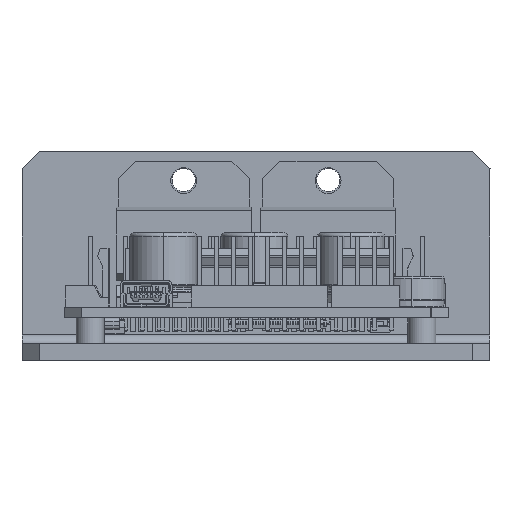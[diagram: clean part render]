
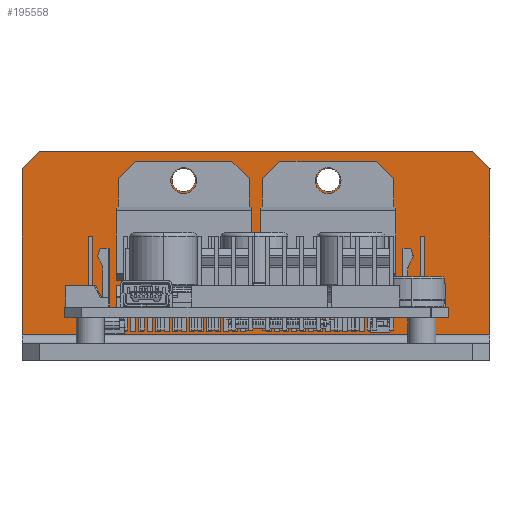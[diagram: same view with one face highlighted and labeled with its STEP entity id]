
A CAD part, left-side view. The second image highlights one B-rep face of the part: STEP entity #195558.
In plain terms, the highlighted planar face has unit normal (-1, 0, 0) as drawn and (0, 0, 1) by its records, which use the part's own axes.
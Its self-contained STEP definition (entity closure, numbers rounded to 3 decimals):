
#2008 = EDGE_CURVE ( 'NONE', #4758, #195263, #186607, .T. ) ;
#4758 = VERTEX_POINT ( 'NONE', #198624 ) ;
#4832 = DIRECTION ( 'NONE',  ( 0., 0., 1. ) ) ;
#6882 = DIRECTION ( 'NONE',  ( 0., 0., 1. ) ) ;
#12177 = CARTESIAN_POINT ( 'NONE',  ( 32.385, 28.575, 0. ) ) ;
#18003 = EDGE_CURVE ( 'NONE', #262494, #252592, #265276, .T. ) ;
#18778 = DIRECTION ( 'NONE',  ( 0., 0., -1. ) ) ;
#19043 = VECTOR ( 'NONE', #72759, 1000. ) ;
#22130 = DIRECTION ( 'NONE',  ( 0., -1., 0. ) ) ;
#24165 = ORIENTED_EDGE ( 'NONE', *, *, #18003, .F. ) ;
#25281 = VECTOR ( 'NONE', #22130, 1000. ) ;
#38261 = AXIS2_PLACEMENT_3D ( 'NONE', #226423, #100465, #247492 ) ;
#45047 = ORIENTED_EDGE ( 'NONE', *, *, #191996, .F. ) ;
#59914 = CARTESIAN_POINT ( 'NONE',  ( -32.385, 28.575, 0. ) ) ;
#60201 = VECTOR ( 'NONE', #178025, 1000. ) ;
#60356 = EDGE_CURVE ( 'NONE', #150615, #4758, #227829, .T. ) ;
#62751 = CARTESIAN_POINT ( 'NONE',  ( -34.925, 1.27, 0. ) ) ;
#71545 = FACE_BOUND ( 'NONE', #80745, .T. ) ;
#72759 = DIRECTION ( 'NONE',  ( 0.707, 0.707, 0. ) ) ;
#73716 = CARTESIAN_POINT ( 'NONE',  ( -34.925, 26.035, 0. ) ) ;
#79378 = CARTESIAN_POINT ( 'NONE',  ( -34.925, 1.27, 0. ) ) ;
#79927 = DIRECTION ( 'NONE',  ( 0., 0., 1. ) ) ;
#80745 = EDGE_LOOP ( 'NONE', ( #126329, #228329 ) ) ;
#84749 = CARTESIAN_POINT ( 'NONE',  ( 12.522, 24.336, 0. ) ) ;
#90665 = VERTEX_POINT ( 'NONE', #59914 ) ;
#91859 = CIRCLE ( 'NONE', #256432, 1.727 ) ;
#98920 = ORIENTED_EDGE ( 'NONE', *, *, #115339, .F. ) ;
#100465 = DIRECTION ( 'NONE',  ( 0., 0., 1. ) ) ;
#100548 = DIRECTION ( 'NONE',  ( 0., 1., 0. ) ) ;
#103503 = AXIS2_PLACEMENT_3D ( 'NONE', #144820, #18778, #166077 ) ;
#105248 = EDGE_CURVE ( 'NONE', #241465, #134500, #265210, .T. ) ;
#115339 = EDGE_CURVE ( 'NONE', #90665, #150615, #116124, .T. ) ;
#116124 = LINE ( 'NONE', #135655, #60201 ) ;
#121766 = ORIENTED_EDGE ( 'NONE', *, *, #2008, .F. ) ;
#126114 = ORIENTED_EDGE ( 'NONE', *, *, #105248, .F. ) ;
#126329 = ORIENTED_EDGE ( 'NONE', *, *, #153613, .F. ) ;
#126334 = EDGE_CURVE ( 'NONE', #208381, #207708, #91859, .T. ) ;
#130882 = CARTESIAN_POINT ( 'NONE',  ( 10.795, 24.336, 0. ) ) ;
#132864 = CARTESIAN_POINT ( 'NONE',  ( -10.795, 24.336, 0. ) ) ;
#134500 = VERTEX_POINT ( 'NONE', #73716 ) ;
#135655 = CARTESIAN_POINT ( 'NONE',  ( 34.925, 28.575, 0. ) ) ;
#137504 = DIRECTION ( 'NONE',  ( 1., 0., 0. ) ) ;
#144820 = CARTESIAN_POINT ( 'NONE',  ( 34.925, 0., 0. ) ) ;
#148249 = CARTESIAN_POINT ( 'NONE',  ( 34.925, 1.27, 0. ) ) ;
#150615 = VERTEX_POINT ( 'NONE', #12177 ) ;
#152080 = DIRECTION ( 'NONE',  ( -1., 0., 0. ) ) ;
#153345 = VECTOR ( 'NONE', #100548, 1000. ) ;
#153613 = EDGE_CURVE ( 'NONE', #207708, #208381, #224548, .T. ) ;
#154116 = DIRECTION ( 'NONE',  ( -1., 0., 0. ) ) ;
#166077 = DIRECTION ( 'NONE',  ( -1., 0., 0. ) ) ;
#167040 = AXIS2_PLACEMENT_3D ( 'NONE', #130882, #4832, #152080 ) ;
#171457 = EDGE_CURVE ( 'NONE', #252592, #262494, #264326, .T. ) ;
#171928 = VECTOR ( 'NONE', #193159, 1000. ) ;
#175407 = CARTESIAN_POINT ( 'NONE',  ( 9.068, 24.336, 0. ) ) ;
#178025 = DIRECTION ( 'NONE',  ( 1., 0., 0. ) ) ;
#180043 = EDGE_LOOP ( 'NONE', ( #24165, #187632 ) ) ;
#183352 = FACE_OUTER_BOUND ( 'NONE', #232844, .T. ) ;
#184971 = AXIS2_PLACEMENT_3D ( 'NONE', #132864, #6882, #154116 ) ;
#185284 = PLANE ( 'NONE',  #103503 ) ;
#186156 = ORIENTED_EDGE ( 'NONE', *, *, #60356, .F. ) ;
#186607 = LINE ( 'NONE', #148249, #25281 ) ;
#187632 = ORIENTED_EDGE ( 'NONE', *, *, #171457, .F. ) ;
#190219 = VECTOR ( 'NONE', #137504, 1000. ) ;
#191996 = EDGE_CURVE ( 'NONE', #134500, #90665, #242823, .T. ) ;
#192855 = ORIENTED_EDGE ( 'NONE', *, *, #195342, .T. ) ;
#193159 = DIRECTION ( 'NONE',  ( 0.707, -0.707, 0. ) ) ;
#195263 = VERTEX_POINT ( 'NONE', #220451 ) ;
#195342 = EDGE_CURVE ( 'NONE', #241465, #195263, #246151, .T. ) ;
#195558 = ADVANCED_FACE ( 'NONE', ( #71545, #239282, #183352 ), #185284, .F. ) ;
#198624 = CARTESIAN_POINT ( 'NONE',  ( 34.925, 26.035, 0. ) ) ;
#200151 = CARTESIAN_POINT ( 'NONE',  ( 34.925, 1.27, 0. ) ) ;
#205880 = CARTESIAN_POINT ( 'NONE',  ( 10.795, 24.336, 0. ) ) ;
#207708 = VERTEX_POINT ( 'NONE', #175407 ) ;
#208381 = VERTEX_POINT ( 'NONE', #84749 ) ;
#220451 = CARTESIAN_POINT ( 'NONE',  ( 34.925, 1.27, 0. ) ) ;
#224548 = CIRCLE ( 'NONE', #167040, 1.727 ) ;
#226423 = CARTESIAN_POINT ( 'NONE',  ( -10.795, 24.336, 0. ) ) ;
#227027 = DIRECTION ( 'NONE',  ( -1., 0., 0. ) ) ;
#227829 = LINE ( 'NONE', #255717, #171928 ) ;
#228329 = ORIENTED_EDGE ( 'NONE', *, *, #126334, .F. ) ;
#232844 = EDGE_LOOP ( 'NONE', ( #98920, #45047, #126114, #192855, #121766, #186156 ) ) ;
#239282 = FACE_BOUND ( 'NONE', #180043, .T. ) ;
#240978 = CARTESIAN_POINT ( 'NONE',  ( -34.925, 26.035, 0. ) ) ;
#241465 = VERTEX_POINT ( 'NONE', #62751 ) ;
#242076 = CARTESIAN_POINT ( 'NONE',  ( -12.522, 24.336, 0. ) ) ;
#242823 = LINE ( 'NONE', #240978, #19043 ) ;
#246151 = LINE ( 'NONE', #200151, #190219 ) ;
#247492 = DIRECTION ( 'NONE',  ( -1., 0., 0. ) ) ;
#252592 = VERTEX_POINT ( 'NONE', #266854 ) ;
#255717 = CARTESIAN_POINT ( 'NONE',  ( 32.385, 28.575, 0. ) ) ;
#256432 = AXIS2_PLACEMENT_3D ( 'NONE', #205880, #79927, #227027 ) ;
#262494 = VERTEX_POINT ( 'NONE', #242076 ) ;
#264326 = CIRCLE ( 'NONE', #38261, 1.727 ) ;
#265210 = LINE ( 'NONE', #79378, #153345 ) ;
#265276 = CIRCLE ( 'NONE', #184971, 1.727 ) ;
#266854 = CARTESIAN_POINT ( 'NONE',  ( -9.068, 24.336, 0. ) ) ;
